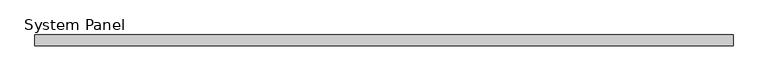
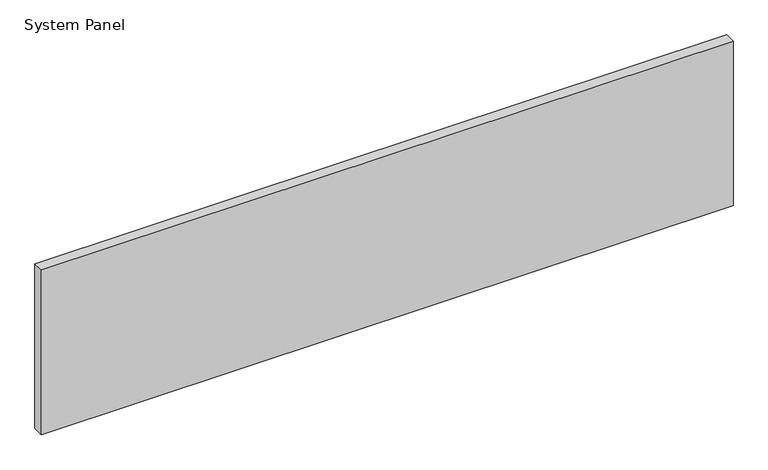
"""IFC4 building model written with IfcOpenShell, lengths in millimetres: plate geometry, System Panel : Glazed - ACMP (AL-1)."""

from ifc_helpers import new_model, si_unit, origin, origin_with_axes, place, context, project, spatial, polyline, outline, extrude, source, transform, mapped, element, save


def system_panel_18c8c740(model_context):
    return source(origin(), model_context, "Body", "SweptSolid", [
        extrude(outline(polyline([(806.8516712, 0.0), (-806.8516712, 0.0), (-806.8516712, 25.4), (806.8516712, 25.4), (806.8516712, 0.0)])), origin_with_axes(), (0.0, 0.0, 1.0), 406.399997),
    ])


if __name__ == "__main__":
    model = new_model("IFC4")
    model_context = context("Model", 3, world=origin())
    ifc_project = project(units=[si_unit("LENGTHUNIT", "METRE", prefix="MILLI")], contexts=[model_context])
    site = spatial("IfcSite", under=ifc_project)
    building = spatial("IfcBuilding", under=site)
    placement = place(None, origin())
    system_panel_shape = system_panel_18c8c740(model_context)
    element("IfcPlate", 1, ObjectType="System Panel : Glazed - ACMP (AL-1)", at=placement, inside=building, context=model_context, shape_type="MappedRepresentation", body=[
        mapped(system_panel_shape, transform((0.0, 0.0, 0.0), x_axis=(1.0, 0.0, 0.0), y_axis=(0.0, 1.0, 0.0), z_axis=(0.0, 0.0, 1.0))),
    ])
    save(model, "model.ifc")
